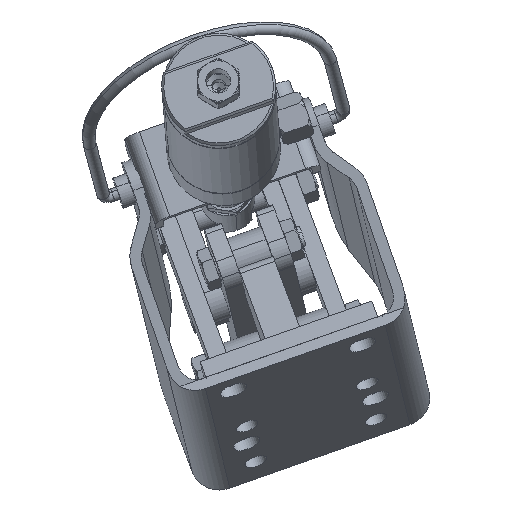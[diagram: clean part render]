
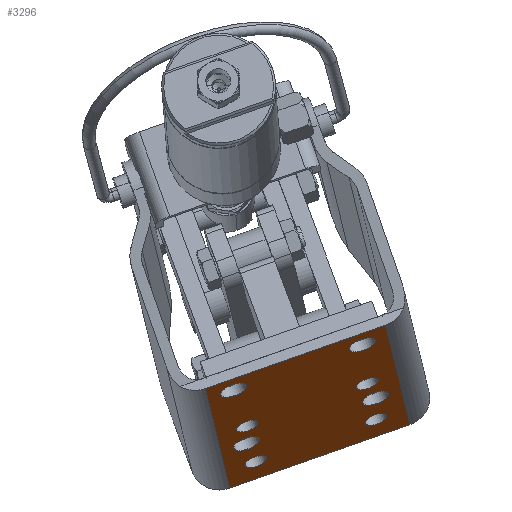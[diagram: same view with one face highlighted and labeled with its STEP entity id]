
A CAD part, top view. The second image highlights one B-rep face of the part: STEP entity #3296.
In plain terms, the highlighted planar face has unit normal (0.321, -0.859, 0.398) as drawn and (0, -1, 0) by its records, which use the part's own axes.
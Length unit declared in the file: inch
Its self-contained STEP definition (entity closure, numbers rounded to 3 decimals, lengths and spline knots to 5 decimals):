
#1629=CARTESIAN_POINT('',(0.43262,-0.156,3.75));
#1630=VERTEX_POINT('',#1629);
#1639=CARTESIAN_POINT('',(0.80762,-0.156,3.75));
#1640=VERTEX_POINT('',#1639);
#1641=CARTESIAN_POINT('',(0.62012,-0.156,3.75));
#1642=DIRECTION('',(0.0,1.0,0.0));
#1643=DIRECTION('',(-1.0,0.0,0.0));
#1644=AXIS2_PLACEMENT_3D('',#1641,#1642,#1643);
#1645=CIRCLE('',#1644,0.1875);
#1646=EDGE_CURVE('',#1640,#1630,#1645,.T.);
#1671=CARTESIAN_POINT('',(2.30862,-0.156,1.875));
#1672=VERTEX_POINT('',#1671);
#1681=CARTESIAN_POINT('',(2.68362,-0.156,1.875));
#1682=VERTEX_POINT('',#1681);
#1683=CARTESIAN_POINT('',(2.49612,-0.156,1.875));
#1684=DIRECTION('',(0.0,1.0,0.0));
#1685=DIRECTION('',(-1.0,0.0,0.0));
#1686=AXIS2_PLACEMENT_3D('',#1683,#1684,#1685);
#1687=CIRCLE('',#1686,0.1875);
#1688=EDGE_CURVE('',#1682,#1672,#1687,.T.);
#1713=CARTESIAN_POINT('',(0.43262,-0.156,1.875));
#1714=VERTEX_POINT('',#1713);
#1723=CARTESIAN_POINT('',(0.80762,-0.156,1.875));
#1724=VERTEX_POINT('',#1723);
#1725=CARTESIAN_POINT('',(0.62012,-0.156,1.875));
#1726=DIRECTION('',(0.0,1.0,0.0));
#1727=DIRECTION('',(-1.0,0.0,0.0));
#1728=AXIS2_PLACEMENT_3D('',#1725,#1726,#1727);
#1729=CIRCLE('',#1728,0.1875);
#1730=EDGE_CURVE('',#1724,#1714,#1729,.T.);
#1755=CARTESIAN_POINT('',(2.30862,-0.156,3.75));
#1756=VERTEX_POINT('',#1755);
#1765=CARTESIAN_POINT('',(2.68362,-0.156,3.75));
#1766=VERTEX_POINT('',#1765);
#1767=CARTESIAN_POINT('',(2.49612,-0.156,3.75));
#1768=DIRECTION('',(0.0,1.0,0.0));
#1769=DIRECTION('',(-1.0,0.0,0.0));
#1770=AXIS2_PLACEMENT_3D('',#1767,#1768,#1769);
#1771=CIRCLE('',#1770,0.1875);
#1772=EDGE_CURVE('',#1766,#1756,#1771,.T.);
#1797=CARTESIAN_POINT('',(0.52712,-0.156,4.438));
#1798=VERTEX_POINT('',#1797);
#1807=CARTESIAN_POINT('',(0.83912,-0.156,4.438));
#1808=VERTEX_POINT('',#1807);
#1809=CARTESIAN_POINT('',(0.68312,-0.156,4.438));
#1810=DIRECTION('',(0.0,1.0,0.0));
#1811=DIRECTION('',(-1.0,0.0,0.0));
#1812=AXIS2_PLACEMENT_3D('',#1809,#1810,#1811);
#1813=CIRCLE('',#1812,0.156);
#1814=EDGE_CURVE('',#1808,#1798,#1813,.T.);
#1839=CARTESIAN_POINT('',(2.27712,-0.156,3.188));
#1840=VERTEX_POINT('',#1839);
#1849=CARTESIAN_POINT('',(2.58912,-0.156,3.188));
#1850=VERTEX_POINT('',#1849);
#1851=CARTESIAN_POINT('',(2.43312,-0.156,3.188));
#1852=DIRECTION('',(0.0,1.0,0.0));
#1853=DIRECTION('',(-1.0,0.0,0.0));
#1854=AXIS2_PLACEMENT_3D('',#1851,#1852,#1853);
#1855=CIRCLE('',#1854,0.156);
#1856=EDGE_CURVE('',#1850,#1840,#1855,.T.);
#1881=CARTESIAN_POINT('',(0.52712,-0.156,3.188));
#1882=VERTEX_POINT('',#1881);
#1891=CARTESIAN_POINT('',(0.83912,-0.156,3.188));
#1892=VERTEX_POINT('',#1891);
#1893=CARTESIAN_POINT('',(0.68312,-0.156,3.188));
#1894=DIRECTION('',(0.0,1.0,0.0));
#1895=DIRECTION('',(-1.0,0.0,0.0));
#1896=AXIS2_PLACEMENT_3D('',#1893,#1894,#1895);
#1897=CIRCLE('',#1896,0.156);
#1898=EDGE_CURVE('',#1892,#1882,#1897,.T.);
#1923=CARTESIAN_POINT('',(2.27712,-0.156,4.438));
#1924=VERTEX_POINT('',#1923);
#1933=CARTESIAN_POINT('',(2.58912,-0.156,4.438));
#1934=VERTEX_POINT('',#1933);
#1935=CARTESIAN_POINT('',(2.43312,-0.156,4.438));
#1936=DIRECTION('',(0.0,1.0,0.0));
#1937=DIRECTION('',(-1.0,0.0,0.0));
#1938=AXIS2_PLACEMENT_3D('',#1935,#1936,#1937);
#1939=CIRCLE('',#1938,0.156);
#1940=EDGE_CURVE('',#1934,#1924,#1939,.T.);
#1974=CARTESIAN_POINT('',(2.43312,-0.156,4.438));
#1975=DIRECTION('',(0.0,1.0,0.0));
#1976=DIRECTION('',(-1.0,0.0,0.0));
#1977=AXIS2_PLACEMENT_3D('',#1974,#1975,#1976);
#1978=CIRCLE('',#1977,0.156);
#1979=EDGE_CURVE('',#1924,#1934,#1978,.T.);
#1998=CARTESIAN_POINT('',(0.68312,-0.156,3.188));
#1999=DIRECTION('',(0.0,1.0,0.0));
#2000=DIRECTION('',(-1.0,0.0,0.0));
#2001=AXIS2_PLACEMENT_3D('',#1998,#1999,#2000);
#2002=CIRCLE('',#2001,0.156);
#2003=EDGE_CURVE('',#1882,#1892,#2002,.T.);
#2022=CARTESIAN_POINT('',(2.43312,-0.156,3.188));
#2023=DIRECTION('',(0.0,1.0,0.0));
#2024=DIRECTION('',(-1.0,0.0,0.0));
#2025=AXIS2_PLACEMENT_3D('',#2022,#2023,#2024);
#2026=CIRCLE('',#2025,0.156);
#2027=EDGE_CURVE('',#1840,#1850,#2026,.T.);
#2046=CARTESIAN_POINT('',(0.68312,-0.156,4.438));
#2047=DIRECTION('',(0.0,1.0,0.0));
#2048=DIRECTION('',(-1.0,0.0,0.0));
#2049=AXIS2_PLACEMENT_3D('',#2046,#2047,#2048);
#2050=CIRCLE('',#2049,0.156);
#2051=EDGE_CURVE('',#1798,#1808,#2050,.T.);
#2070=CARTESIAN_POINT('',(2.49612,-0.156,3.75));
#2071=DIRECTION('',(0.0,1.0,0.0));
#2072=DIRECTION('',(-1.0,0.0,0.0));
#2073=AXIS2_PLACEMENT_3D('',#2070,#2071,#2072);
#2074=CIRCLE('',#2073,0.1875);
#2075=EDGE_CURVE('',#1756,#1766,#2074,.T.);
#2094=CARTESIAN_POINT('',(0.62012,-0.156,1.875));
#2095=DIRECTION('',(0.0,1.0,0.0));
#2096=DIRECTION('',(-1.0,0.0,0.0));
#2097=AXIS2_PLACEMENT_3D('',#2094,#2095,#2096);
#2098=CIRCLE('',#2097,0.1875);
#2099=EDGE_CURVE('',#1714,#1724,#2098,.T.);
#2118=CARTESIAN_POINT('',(2.49612,-0.156,1.875));
#2119=DIRECTION('',(0.0,1.0,0.0));
#2120=DIRECTION('',(-1.0,0.0,0.0));
#2121=AXIS2_PLACEMENT_3D('',#2118,#2119,#2120);
#2122=CIRCLE('',#2121,0.1875);
#2123=EDGE_CURVE('',#1672,#1682,#2122,.T.);
#2142=CARTESIAN_POINT('',(0.62012,-0.156,3.75));
#2143=DIRECTION('',(0.0,1.0,0.0));
#2144=DIRECTION('',(-1.0,0.0,0.0));
#2145=AXIS2_PLACEMENT_3D('',#2142,#2143,#2144);
#2146=CIRCLE('',#2145,0.1875);
#2147=EDGE_CURVE('',#1630,#1640,#2146,.T.);
#2787=CARTESIAN_POINT('',(2.86862,-0.156,1.5));
#2788=VERTEX_POINT('',#2787);
#2796=CARTESIAN_POINT('',(0.24762,-0.156,1.5));
#2797=VERTEX_POINT('',#2796);
#2798=CARTESIAN_POINT('',(0.24762,-0.156,1.5));
#2799=DIRECTION('',(1.0,0.0,0.0));
#2800=VECTOR('',#2799,2.621);
#2801=LINE('',#2798,#2800);
#2802=EDGE_CURVE('',#2797,#2788,#2801,.T.);
#3222=CARTESIAN_POINT('',(2.86862,-0.156,5.0));
#3223=VERTEX_POINT('',#3222);
#3231=CARTESIAN_POINT('',(2.86862,-0.156,1.5));
#3232=DIRECTION('',(0.0,0.0,1.0));
#3233=VECTOR('',#3232,3.5);
#3234=LINE('',#3231,#3233);
#3235=EDGE_CURVE('',#2788,#3223,#3234,.T.);
#3241=CARTESIAN_POINT('',(2.86862,-0.156,0.0));
#3242=DIRECTION('',(0.0,-1.0,0.0));
#3243=DIRECTION('',(0.0,0.0,-1.0));
#3244=AXIS2_PLACEMENT_3D('',#3241,#3242,#3243);
#3245=PLANE('',#3244);
#3246=ORIENTED_EDGE('',*,*,#2802,.T.);
#3247=ORIENTED_EDGE('',*,*,#3235,.T.);
#3248=CARTESIAN_POINT('',(0.24762,-0.156,5.0));
#3249=VERTEX_POINT('',#3248);
#3250=CARTESIAN_POINT('',(2.86862,-0.156,5.0));
#3251=DIRECTION('',(-1.0,0.0,0.0));
#3252=VECTOR('',#3251,2.621);
#3253=LINE('',#3250,#3252);
#3254=EDGE_CURVE('',#3223,#3249,#3253,.T.);
#3255=ORIENTED_EDGE('',*,*,#3254,.T.);
#3256=CARTESIAN_POINT('',(0.24762,-0.156,1.5));
#3257=DIRECTION('',(0.0,0.0,1.0));
#3258=VECTOR('',#3257,3.5);
#3259=LINE('',#3256,#3258);
#3260=EDGE_CURVE('',#2797,#3249,#3259,.T.);
#3261=ORIENTED_EDGE('',*,*,#3260,.F.);
#3262=EDGE_LOOP('',(#3246,#3247,#3255,#3261));
#3263=FACE_OUTER_BOUND('',#3262,.T.);
#3264=ORIENTED_EDGE('',*,*,#1940,.T.);
#3265=ORIENTED_EDGE('',*,*,#1979,.T.);
#3266=EDGE_LOOP('',(#3264,#3265));
#3267=FACE_BOUND('',#3266,.T.);
#3268=ORIENTED_EDGE('',*,*,#1898,.T.);
#3269=ORIENTED_EDGE('',*,*,#2003,.T.);
#3270=EDGE_LOOP('',(#3268,#3269));
#3271=FACE_BOUND('',#3270,.T.);
#3272=ORIENTED_EDGE('',*,*,#1856,.T.);
#3273=ORIENTED_EDGE('',*,*,#2027,.T.);
#3274=EDGE_LOOP('',(#3272,#3273));
#3275=FACE_BOUND('',#3274,.T.);
#3276=ORIENTED_EDGE('',*,*,#1814,.T.);
#3277=ORIENTED_EDGE('',*,*,#2051,.T.);
#3278=EDGE_LOOP('',(#3276,#3277));
#3279=FACE_BOUND('',#3278,.T.);
#3280=ORIENTED_EDGE('',*,*,#1772,.T.);
#3281=ORIENTED_EDGE('',*,*,#2075,.T.);
#3282=EDGE_LOOP('',(#3280,#3281));
#3283=FACE_BOUND('',#3282,.T.);
#3284=ORIENTED_EDGE('',*,*,#1730,.T.);
#3285=ORIENTED_EDGE('',*,*,#2099,.T.);
#3286=EDGE_LOOP('',(#3284,#3285));
#3287=FACE_BOUND('',#3286,.T.);
#3288=ORIENTED_EDGE('',*,*,#1688,.T.);
#3289=ORIENTED_EDGE('',*,*,#2123,.T.);
#3290=EDGE_LOOP('',(#3288,#3289));
#3291=FACE_BOUND('',#3290,.T.);
#3292=ORIENTED_EDGE('',*,*,#1646,.T.);
#3293=ORIENTED_EDGE('',*,*,#2147,.T.);
#3294=EDGE_LOOP('',(#3292,#3293));
#3295=FACE_BOUND('',#3294,.T.);
#3296=ADVANCED_FACE('',(#3263,#3267,#3271,#3275,#3279,#3283,#3287,#3291,#3295),#3245,.T.);
